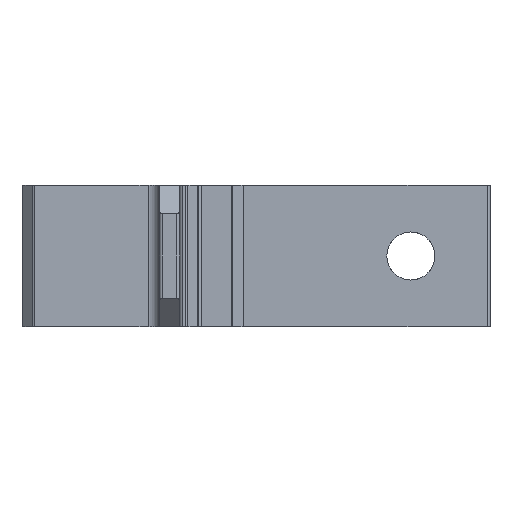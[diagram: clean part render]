
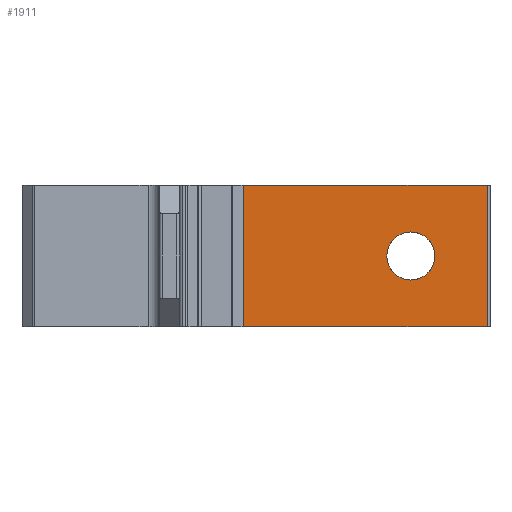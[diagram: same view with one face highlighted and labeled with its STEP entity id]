
A CAD part, left-side view. The second image highlights one B-rep face of the part: STEP entity #1911.
In plain terms, the highlighted planar face has unit normal (-1, 0, 0).
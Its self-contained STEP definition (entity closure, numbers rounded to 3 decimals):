
#181 = AXIS2_PLACEMENT_3D ( 'NONE', #2894, #1402, #641 ) ;
#197 = DIRECTION ( 'NONE',  ( 0., 0., -1. ) ) ;
#346 = EDGE_LOOP ( 'NONE', ( #954, #4744 ) ) ;
#499 = AXIS2_PLACEMENT_3D ( 'NONE', #3560, #1288, #197 ) ;
#501 = CARTESIAN_POINT ( 'NONE',  ( -4., 46.6, 12.5 ) ) ;
#585 = EDGE_CURVE ( 'NONE', #1205, #2861, #780, .T. ) ;
#641 = DIRECTION ( 'NONE',  ( 0., 0., -1. ) ) ;
#719 = ORIENTED_EDGE ( 'NONE', *, *, #3665, .F. ) ;
#780 = CIRCLE ( 'NONE', #499, 4.25 ) ;
#844 = AXIS2_PLACEMENT_3D ( 'NONE', #1526, #2268, #1895 ) ;
#954 = ORIENTED_EDGE ( 'NONE', *, *, #585, .T. ) ;
#991 = LINE ( 'NONE', #1137, #3296 ) ;
#1088 = ORIENTED_EDGE ( 'NONE', *, *, #4169, .F. ) ;
#1115 = DIRECTION ( 'NONE',  ( 0., -1., 0. ) ) ;
#1126 = ORIENTED_EDGE ( 'NONE', *, *, #3929, .T. ) ;
#1137 = CARTESIAN_POINT ( 'NONE',  ( -4., 0.5, 12.5 ) ) ;
#1205 = VERTEX_POINT ( 'NONE', #1637 ) ;
#1288 = DIRECTION ( 'NONE',  ( 1., 0., 0. ) ) ;
#1296 = VERTEX_POINT ( 'NONE', #1710 ) ;
#1311 = VECTOR ( 'NONE', #1115, 1000. ) ;
#1348 = CARTESIAN_POINT ( 'NONE',  ( -4., 46.6, 12.5 ) ) ;
#1386 = PLANE ( 'NONE',  #181 ) ;
#1402 = DIRECTION ( 'NONE',  ( 1., 0., 0. ) ) ;
#1445 = LINE ( 'NONE', #1348, #3642 ) ;
#1526 = CARTESIAN_POINT ( 'NONE',  ( -4., 14., 0. ) ) ;
#1574 = EDGE_CURVE ( 'NONE', #2861, #1205, #2523, .T. ) ;
#1637 = CARTESIAN_POINT ( 'NONE',  ( -4., 14., -4.25 ) ) ;
#1710 = CARTESIAN_POINT ( 'NONE',  ( -4., 46.6, -12.5 ) ) ;
#1777 = VERTEX_POINT ( 'NONE', #3485 ) ;
#1895 = DIRECTION ( 'NONE',  ( 0., 0., -1. ) ) ;
#1911 = ADVANCED_FACE ( 'NONE', ( #4720, #3711 ), #1386, .F. ) ;
#2202 = LINE ( 'NONE', #4532, #1311 ) ;
#2268 = DIRECTION ( 'NONE',  ( 1., 0., 0. ) ) ;
#2523 = CIRCLE ( 'NONE', #844, 4.25 ) ;
#2704 = EDGE_CURVE ( 'NONE', #1296, #1777, #2202, .T. ) ;
#2857 = DIRECTION ( 'NONE',  ( 0., 0., -1. ) ) ;
#2861 = VERTEX_POINT ( 'NONE', #4848 ) ;
#2894 = CARTESIAN_POINT ( 'NONE',  ( -4., 0.5, 12.5 ) ) ;
#2991 = CARTESIAN_POINT ( 'NONE',  ( -4., 0.5, 12.5 ) ) ;
#3041 = EDGE_LOOP ( 'NONE', ( #3197, #719, #1088, #1126 ) ) ;
#3046 = DIRECTION ( 'NONE',  ( 0., 0., -1. ) ) ;
#3197 = ORIENTED_EDGE ( 'NONE', *, *, #2704, .T. ) ;
#3258 = VERTEX_POINT ( 'NONE', #501 ) ;
#3296 = VECTOR ( 'NONE', #3046, 1000. ) ;
#3398 = LINE ( 'NONE', #2991, #3814 ) ;
#3485 = CARTESIAN_POINT ( 'NONE',  ( -4., 0.5, -12.5 ) ) ;
#3560 = CARTESIAN_POINT ( 'NONE',  ( -4., 14., 0. ) ) ;
#3642 = VECTOR ( 'NONE', #2857, 1000. ) ;
#3665 = EDGE_CURVE ( 'NONE', #3926, #1777, #991, .T. ) ;
#3711 = FACE_OUTER_BOUND ( 'NONE', #3041, .T. ) ;
#3783 = DIRECTION ( 'NONE',  ( 0., -1., 0. ) ) ;
#3814 = VECTOR ( 'NONE', #3783, 1000. ) ;
#3926 = VERTEX_POINT ( 'NONE', #4002 ) ;
#3929 = EDGE_CURVE ( 'NONE', #3258, #1296, #1445, .T. ) ;
#4002 = CARTESIAN_POINT ( 'NONE',  ( -4., 0.5, 12.5 ) ) ;
#4169 = EDGE_CURVE ( 'NONE', #3258, #3926, #3398, .T. ) ;
#4532 = CARTESIAN_POINT ( 'NONE',  ( -4., 0.5, -12.5 ) ) ;
#4720 = FACE_BOUND ( 'NONE', #346, .T. ) ;
#4744 = ORIENTED_EDGE ( 'NONE', *, *, #1574, .T. ) ;
#4848 = CARTESIAN_POINT ( 'NONE',  ( -4., 14., 4.25 ) ) ;
